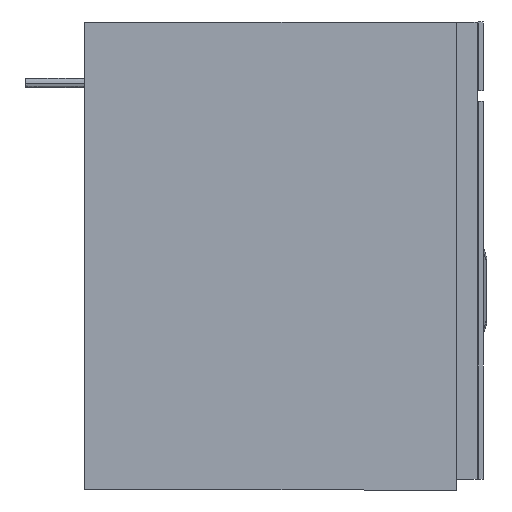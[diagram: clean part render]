
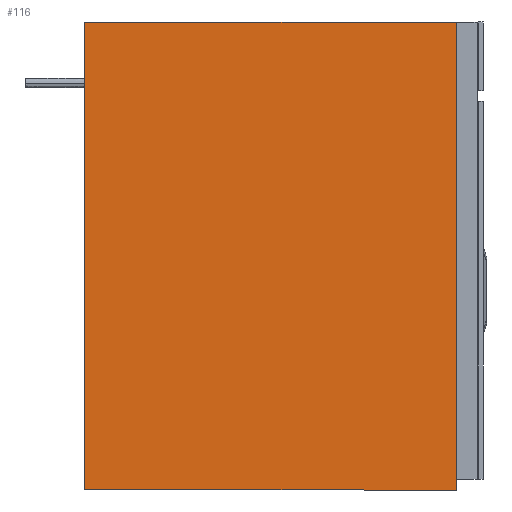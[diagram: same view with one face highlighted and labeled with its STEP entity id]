
A CAD part, front view. The second image highlights one B-rep face of the part: STEP entity #116.
In plain terms, the highlighted free-form (B-spline) face has degree [3, 3] with [4, 10] control points.
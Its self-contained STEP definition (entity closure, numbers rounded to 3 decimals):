
#116=ADVANCED_FACE('',(#172),#736,.T.);
#172=FACE_OUTER_BOUND('',#228,.T.);
#228=EDGE_LOOP('',(#419,#420,#421,#422));
#419=ORIENTED_EDGE('',*,*,#578,.T.);
#420=ORIENTED_EDGE('',*,*,#582,.T.);
#421=ORIENTED_EDGE('',*,*,#571,.F.);
#422=ORIENTED_EDGE('',*,*,#579,.F.);
#571=EDGE_CURVE('',#669,#670,#827,.T.);
#578=EDGE_CURVE('',#673,#676,#834,.T.);
#579=EDGE_CURVE('',#673,#669,#835,.T.);
#582=EDGE_CURVE('',#676,#670,#838,.T.);
#669=VERTEX_POINT('',#1680);
#670=VERTEX_POINT('',#1681);
#673=VERTEX_POINT('',#1684);
#676=VERTEX_POINT('',#1687);
#736=B_SPLINE_SURFACE_WITH_KNOTS('',3,3,((#1640,#1641,#1642,#1643,#1644,
#1645,#1646,#1647,#1648,#1649),(#1650,#1651,#1652,#1653,#1654,#1655,#1656,
#1657,#1658,#1659),(#1660,#1661,#1662,#1663,#1664,#1665,#1666,#1667,#1668,
#1669),(#1670,#1671,#1672,#1673,#1674,#1675,#1676,#1677,#1678,#1679)),.UNSPECIFIED.,
.F.,.F.,.F.,(4,4),(4,3,3,4),(0.,1.),(0.,0.333,0.667,
1.),.UNSPECIFIED.);
#827=B_SPLINE_CURVE_WITH_KNOTS('',1,(#1580,#1581),.UNSPECIFIED.,.F.,.F.,
(2,2),(0.,1.),.UNSPECIFIED.);
#834=B_SPLINE_CURVE_WITH_KNOTS('',1,(#1594,#1595),.UNSPECIFIED.,.F.,.F.,
(2,2),(0.,1.),.UNSPECIFIED.);
#835=B_SPLINE_CURVE_WITH_KNOTS('',3,(#1596,#1597,#1598,#1599,#1600,#1601,
#1602,#1603,#1604,#1605),.UNSPECIFIED.,.F.,.F.,(4,3,3,4),(0.,0.333,
0.667,1.),.UNSPECIFIED.);
#838=B_SPLINE_CURVE_WITH_KNOTS('',3,(#1610,#1611,#1612,#1613,#1614,#1615,
#1616,#1617,#1618,#1619),.UNSPECIFIED.,.F.,.F.,(4,3,3,4),(0.,0.333,
0.667,1.),.UNSPECIFIED.);
#1580=CARTESIAN_POINT('',(-302.327,-247.5,380.717));
#1581=CARTESIAN_POINT('',(-0.114,-247.5,380.717));
#1594=CARTESIAN_POINT('',(-302.327,-247.5,0.017));
#1595=CARTESIAN_POINT('',(-0.114,-247.5,0.017));
#1596=CARTESIAN_POINT('',(-302.327,-247.5,0.017));
#1597=CARTESIAN_POINT('',(-302.327,-247.5,42.317));
#1598=CARTESIAN_POINT('',(-302.327,-247.5,84.617));
#1599=CARTESIAN_POINT('',(-302.327,-247.5,126.917));
#1600=CARTESIAN_POINT('',(-302.327,-247.5,169.217));
#1601=CARTESIAN_POINT('',(-302.327,-247.5,211.517));
#1602=CARTESIAN_POINT('',(-302.327,-247.5,253.817));
#1603=CARTESIAN_POINT('',(-302.327,-247.5,296.117));
#1604=CARTESIAN_POINT('',(-302.327,-247.5,338.417));
#1605=CARTESIAN_POINT('',(-302.327,-247.5,380.717));
#1610=CARTESIAN_POINT('',(-0.114,-247.5,0.017));
#1611=CARTESIAN_POINT('',(-0.114,-247.5,42.317));
#1612=CARTESIAN_POINT('',(-0.114,-247.5,84.617));
#1613=CARTESIAN_POINT('',(-0.114,-247.5,126.917));
#1614=CARTESIAN_POINT('',(-0.114,-247.5,169.217));
#1615=CARTESIAN_POINT('',(-0.114,-247.5,211.517));
#1616=CARTESIAN_POINT('',(-0.114,-247.5,253.817));
#1617=CARTESIAN_POINT('',(-0.114,-247.5,296.117));
#1618=CARTESIAN_POINT('',(-0.114,-247.5,338.417));
#1619=CARTESIAN_POINT('',(-0.114,-247.5,380.717));
#1640=CARTESIAN_POINT('',(-302.327,-247.5,0.017));
#1641=CARTESIAN_POINT('',(-302.327,-247.5,42.317));
#1642=CARTESIAN_POINT('',(-302.327,-247.5,84.617));
#1643=CARTESIAN_POINT('',(-302.327,-247.5,126.917));
#1644=CARTESIAN_POINT('',(-302.327,-247.5,169.217));
#1645=CARTESIAN_POINT('',(-302.327,-247.5,211.517));
#1646=CARTESIAN_POINT('',(-302.327,-247.5,253.817));
#1647=CARTESIAN_POINT('',(-302.327,-247.5,296.117));
#1648=CARTESIAN_POINT('',(-302.327,-247.5,338.417));
#1649=CARTESIAN_POINT('',(-302.327,-247.5,380.717));
#1650=CARTESIAN_POINT('',(-201.59,-247.5,0.017));
#1651=CARTESIAN_POINT('',(-201.59,-247.5,42.317));
#1652=CARTESIAN_POINT('',(-201.59,-247.5,84.617));
#1653=CARTESIAN_POINT('',(-201.59,-247.5,126.917));
#1654=CARTESIAN_POINT('',(-201.59,-247.5,169.217));
#1655=CARTESIAN_POINT('',(-201.59,-247.5,211.517));
#1656=CARTESIAN_POINT('',(-201.59,-247.5,253.817));
#1657=CARTESIAN_POINT('',(-201.59,-247.5,296.117));
#1658=CARTESIAN_POINT('',(-201.59,-247.5,338.417));
#1659=CARTESIAN_POINT('',(-201.59,-247.5,380.717));
#1660=CARTESIAN_POINT('',(-100.852,-247.5,0.017));
#1661=CARTESIAN_POINT('',(-100.852,-247.5,42.317));
#1662=CARTESIAN_POINT('',(-100.852,-247.5,84.617));
#1663=CARTESIAN_POINT('',(-100.852,-247.5,126.917));
#1664=CARTESIAN_POINT('',(-100.852,-247.5,169.217));
#1665=CARTESIAN_POINT('',(-100.852,-247.5,211.517));
#1666=CARTESIAN_POINT('',(-100.852,-247.5,253.817));
#1667=CARTESIAN_POINT('',(-100.852,-247.5,296.117));
#1668=CARTESIAN_POINT('',(-100.852,-247.5,338.417));
#1669=CARTESIAN_POINT('',(-100.852,-247.5,380.717));
#1670=CARTESIAN_POINT('',(-0.114,-247.5,0.017));
#1671=CARTESIAN_POINT('',(-0.114,-247.5,42.317));
#1672=CARTESIAN_POINT('',(-0.114,-247.5,84.617));
#1673=CARTESIAN_POINT('',(-0.114,-247.5,126.917));
#1674=CARTESIAN_POINT('',(-0.114,-247.5,169.217));
#1675=CARTESIAN_POINT('',(-0.114,-247.5,211.517));
#1676=CARTESIAN_POINT('',(-0.114,-247.5,253.817));
#1677=CARTESIAN_POINT('',(-0.114,-247.5,296.117));
#1678=CARTESIAN_POINT('',(-0.114,-247.5,338.417));
#1679=CARTESIAN_POINT('',(-0.114,-247.5,380.717));
#1680=CARTESIAN_POINT('',(-302.327,-247.5,380.717));
#1681=CARTESIAN_POINT('',(-0.114,-247.5,380.717));
#1684=CARTESIAN_POINT('',(-302.327,-247.5,0.017));
#1687=CARTESIAN_POINT('',(-0.114,-247.5,0.017));
